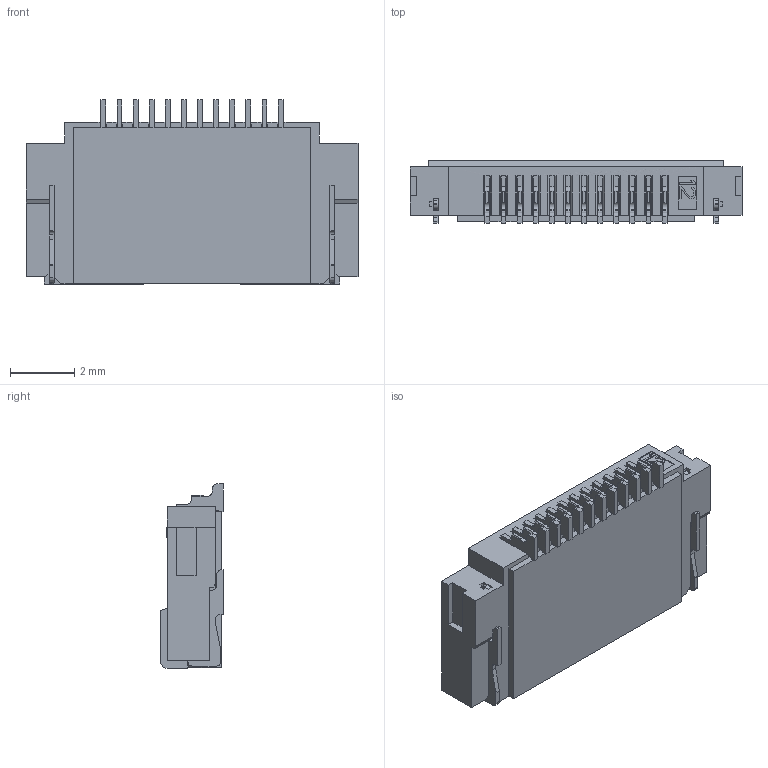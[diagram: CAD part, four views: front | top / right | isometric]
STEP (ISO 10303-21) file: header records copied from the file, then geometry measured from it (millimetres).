
FILE_DESCRIPTION (( 'STEP AP203' ), '1' );
FILE_NAME ('GT-F0507SR20-XXS0101.STEP', '2023-12-27T08:00:29', ( 'Microsoft' ), ( 'Microsoft' ), 'SwSTEP 2.0', 'SolidWorks 2023', '' );
FILE_SCHEMA (( 'CONFIG_CONTROL_DESIGN' ));
Length unit declared in the file: millimetre
Products named in the file (1): GT-F0507SR20-XXS0101
Bounding box: 10.3 x 1.95 x 5.72 mm (x, y, z)
Volume: 59.9 mm3; surface area: 407.7 mm2
Topology: 1 solids, 1 shells, 1488 faces, 4539 edges, 2976 vertices
Faces by surface type: plane 1034, cylinder 380, bspline 74
Entity records: 54478 total; most frequent: CARTESIAN_POINT 13670, ORIENTED_EDGE 9078, DIRECTION 7835, EDGE_CURVE 4539, VECTOR 3521, LINE 3521, VERTEX_POINT 2976, AXIS2_PLACEMENT_3D 2157
